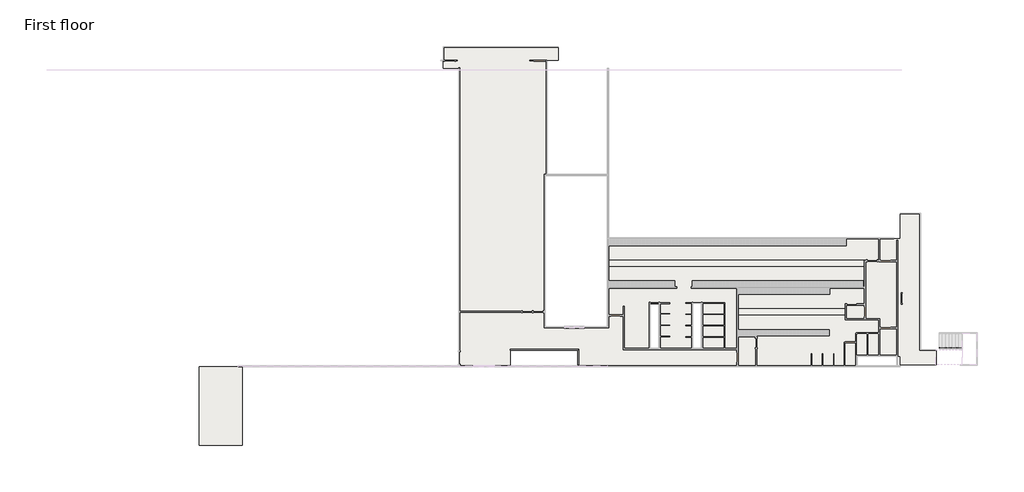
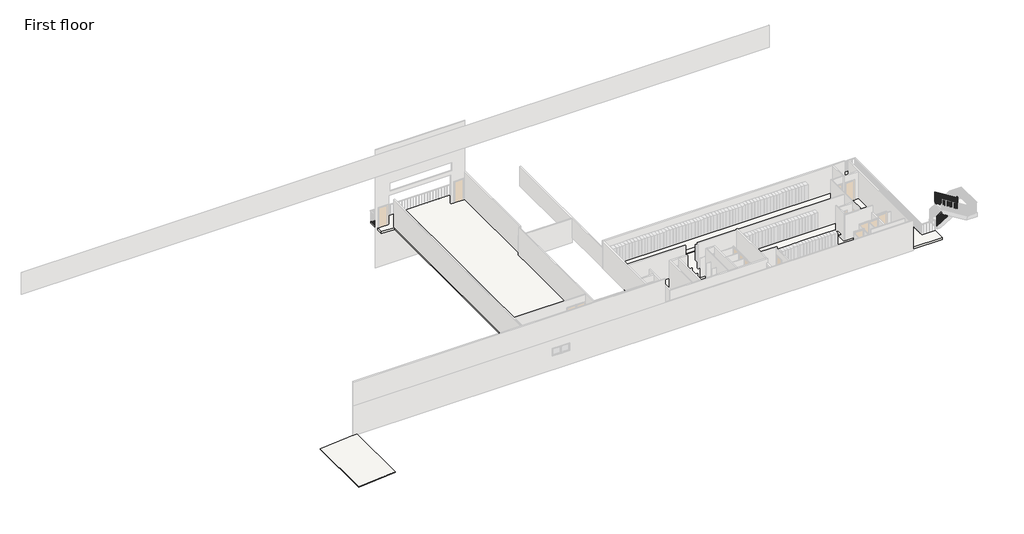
# One storey, part 3 of 5: 2 railings, 2 slabs, 1 roof.
"""IFC4 building model written with IfcOpenShell, lengths in millimetres."""

from ifc_helpers import new_model, si_unit, frame, origin, place, context, project, spatial, polyline, outline, extrude, faceted_brep, element, save

model = new_model("IFC4")

# Units and contexts
model_context = context("Model", 3, world=origin())
ifc_project = project(units=[si_unit("LENGTHUNIT", "METRE", prefix="MILLI")], contexts=[model_context])

# Site, building, storey
site = spatial("IfcSite", under=ifc_project)
building = spatial("IfcBuilding", under=site)
storey = spatial("IfcBuildingStorey", under=building, Name="First floor", Elevation=48170.0)

# Railings
placement = place(None, origin())
element("IfcRailing", 1, ObjectType="1100mm", at=placement, inside=storey, context=model_context, shape_type="SolidModel", body=[
    faceted_brep([(-112927.9372768, 13333.2777512, 49270.0), (-112927.9372768, 13333.2777512, 49220.0), (-112927.9372768, 13283.2777512, 49220.0), (-112927.9372768, 13283.2777512, 49270.0), (-107303.9945013, 13333.2777512, 49270.0), (-107303.9945013, 13333.2777512, 49220.0), (-107353.9945013, 13283.2777512, 49220.0), (-107353.9945013, 13283.2777512, 49270.0), (-107303.9945013, 12069.2777512, 49270.0), (-107353.9945013, 12069.2777512, 49270.0), (-107353.9945013, 12069.2777512, 49220.0), (-107303.9945013, 12069.2777512, 49220.0)], [[[0, 1, 2, 3]], [[1, 0, 4, 5]], [[2, 1, 5, 6]], [[3, 2, 6, 7]], [[0, 3, 7, 4]], [[8, 9, 10, 11]], [[5, 4, 8, 11]], [[6, 5, 11, 10]], [[7, 6, 10, 9]], [[4, 7, 9, 8]]]),
    extrude(outline(polyline([(-107341.4945013, 12220.7777512), (-107316.4945013, 12220.7777512), (-107316.4945013, 12195.7777512), (-107341.4945013, 12195.7777512), (-107341.4945013, 12220.7777512)])), frame((0.0, 0.0, 48170.0), z_axis=(0.0, 0.0, 1.0), x_axis=(1.0, 0.0, 0.0)), (0.0, 0.0, 1.0), 1050.0),
    extrude(outline(polyline([(-107341.4945013, 12495.7777512), (-107316.4945013, 12495.7777512), (-107316.4945013, 12470.7777512), (-107341.4945013, 12470.7777512), (-107341.4945013, 12495.7777512)])), frame((0.0, 0.0, 48170.0), z_axis=(0.0, 0.0, 1.0), x_axis=(1.0, 0.0, 0.0)), (0.0, 0.0, 1.0), 1050.0),
    extrude(outline(polyline([(-107341.4945013, 12770.7777512), (-107316.4945013, 12770.7777512), (-107316.4945013, 12745.7777512), (-107341.4945013, 12745.7777512), (-107341.4945013, 12770.7777512)])), frame((0.0, 0.0, 48170.0), z_axis=(0.0, 0.0, 1.0), x_axis=(1.0, 0.0, 0.0)), (0.0, 0.0, 1.0), 1050.0),
    extrude(outline(polyline([(-107341.4945013, 13045.7777512), (-107316.4945013, 13045.7777512), (-107316.4945013, 13020.7777512), (-107341.4945013, 13020.7777512), (-107341.4945013, 13045.7777512)])), frame((0.0, 0.0, 48170.0), z_axis=(0.0, 0.0, 1.0), x_axis=(1.0, 0.0, 0.0)), (0.0, 0.0, 1.0), 1050.0),
    extrude(outline(polyline([(-107440.4372768, 13295.7777512), (-107440.4372768, 13320.7777512), (-107415.4372768, 13320.7777512), (-107415.4372768, 13295.7777512), (-107440.4372768, 13295.7777512)])), frame((0.0, 0.0, 48170.0), z_axis=(0.0, 0.0, 1.0), x_axis=(1.0, 0.0, 0.0)), (0.0, 0.0, 1.0), 1050.0),
    extrude(outline(polyline([(-107715.4372768, 13295.7777512), (-107715.4372768, 13320.7777512), (-107690.4372768, 13320.7777512), (-107690.4372768, 13295.7777512), (-107715.4372768, 13295.7777512)])), frame((0.0, 0.0, 48170.0), z_axis=(0.0, 0.0, 1.0), x_axis=(1.0, 0.0, 0.0)), (0.0, 0.0, 1.0), 1050.0),
    extrude(outline(polyline([(-107990.4372768, 13295.7777512), (-107990.4372768, 13320.7777512), (-107965.4372768, 13320.7777512), (-107965.4372768, 13295.7777512), (-107990.4372768, 13295.7777512)])), frame((0.0, 0.0, 48170.0), z_axis=(0.0, 0.0, 1.0), x_axis=(1.0, 0.0, 0.0)), (0.0, 0.0, 1.0), 1050.0),
    extrude(outline(polyline([(-108265.4372768, 13295.7777512), (-108265.4372768, 13320.7777512), (-108240.4372768, 13320.7777512), (-108240.4372768, 13295.7777512), (-108265.4372768, 13295.7777512)])), frame((0.0, 0.0, 48170.0), z_axis=(0.0, 0.0, 1.0), x_axis=(1.0, 0.0, 0.0)), (0.0, 0.0, 1.0), 1050.0),
    extrude(outline(polyline([(-108540.4372768, 13295.7777512), (-108540.4372768, 13320.7777512), (-108515.4372768, 13320.7777512), (-108515.4372768, 13295.7777512), (-108540.4372768, 13295.7777512)])), frame((0.0, 0.0, 48170.0), z_axis=(0.0, 0.0, 1.0), x_axis=(1.0, 0.0, 0.0)), (0.0, 0.0, 1.0), 1050.0),
    extrude(outline(polyline([(-108815.4372768, 13295.7777512), (-108815.4372768, 13320.7777512), (-108790.4372768, 13320.7777512), (-108790.4372768, 13295.7777512), (-108815.4372768, 13295.7777512)])), frame((0.0, 0.0, 48170.0), z_axis=(0.0, 0.0, 1.0), x_axis=(1.0, 0.0, 0.0)), (0.0, 0.0, 1.0), 1050.0),
    extrude(outline(polyline([(-109090.4372768, 13295.7777512), (-109090.4372768, 13320.7777512), (-109065.4372768, 13320.7777512), (-109065.4372768, 13295.7777512), (-109090.4372768, 13295.7777512)])), frame((0.0, 0.0, 48170.0), z_axis=(0.0, 0.0, 1.0), x_axis=(1.0, 0.0, 0.0)), (0.0, 0.0, 1.0), 1050.0),
    extrude(outline(polyline([(-109365.4372768, 13295.7777512), (-109365.4372768, 13320.7777512), (-109340.4372768, 13320.7777512), (-109340.4372768, 13295.7777512), (-109365.4372768, 13295.7777512)])), frame((0.0, 0.0, 48170.0), z_axis=(0.0, 0.0, 1.0), x_axis=(1.0, 0.0, 0.0)), (0.0, 0.0, 1.0), 1050.0),
    extrude(outline(polyline([(-109640.4372768, 13295.7777512), (-109640.4372768, 13320.7777512), (-109615.4372768, 13320.7777512), (-109615.4372768, 13295.7777512), (-109640.4372768, 13295.7777512)])), frame((0.0, 0.0, 48170.0), z_axis=(0.0, 0.0, 1.0), x_axis=(1.0, 0.0, 0.0)), (0.0, 0.0, 1.0), 1050.0),
    extrude(outline(polyline([(-109915.4372768, 13295.7777512), (-109915.4372768, 13320.7777512), (-109890.4372768, 13320.7777512), (-109890.4372768, 13295.7777512), (-109915.4372768, 13295.7777512)])), frame((0.0, 0.0, 48170.0), z_axis=(0.0, 0.0, 1.0), x_axis=(1.0, 0.0, 0.0)), (0.0, 0.0, 1.0), 1050.0),
    extrude(outline(polyline([(-110190.4372768, 13295.7777512), (-110190.4372768, 13320.7777512), (-110165.4372768, 13320.7777512), (-110165.4372768, 13295.7777512), (-110190.4372768, 13295.7777512)])), frame((0.0, 0.0, 48170.0), z_axis=(0.0, 0.0, 1.0), x_axis=(1.0, 0.0, 0.0)), (0.0, 0.0, 1.0), 1050.0),
    extrude(outline(polyline([(-110465.4372768, 13295.7777512), (-110465.4372768, 13320.7777512), (-110440.4372768, 13320.7777512), (-110440.4372768, 13295.7777512), (-110465.4372768, 13295.7777512)])), frame((0.0, 0.0, 48170.0), z_axis=(0.0, 0.0, 1.0), x_axis=(1.0, 0.0, 0.0)), (0.0, 0.0, 1.0), 1050.0),
    extrude(outline(polyline([(-110740.4372768, 13295.7777512), (-110740.4372768, 13320.7777512), (-110715.4372768, 13320.7777512), (-110715.4372768, 13295.7777512), (-110740.4372768, 13295.7777512)])), frame((0.0, 0.0, 48170.0), z_axis=(0.0, 0.0, 1.0), x_axis=(1.0, 0.0, 0.0)), (0.0, 0.0, 1.0), 1050.0),
    extrude(outline(polyline([(-111015.4372768, 13295.7777512), (-111015.4372768, 13320.7777512), (-110990.4372768, 13320.7777512), (-110990.4372768, 13295.7777512), (-111015.4372768, 13295.7777512)])), frame((0.0, 0.0, 48170.0), z_axis=(0.0, 0.0, 1.0), x_axis=(1.0, 0.0, 0.0)), (0.0, 0.0, 1.0), 1050.0),
    extrude(outline(polyline([(-111290.4372768, 13295.7777512), (-111290.4372768, 13320.7777512), (-111265.4372768, 13320.7777512), (-111265.4372768, 13295.7777512), (-111290.4372768, 13295.7777512)])), frame((0.0, 0.0, 48170.0), z_axis=(0.0, 0.0, 1.0), x_axis=(1.0, 0.0, 0.0)), (0.0, 0.0, 1.0), 1050.0),
    extrude(outline(polyline([(-111565.4372768, 13295.7777512), (-111565.4372768, 13320.7777512), (-111540.4372768, 13320.7777512), (-111540.4372768, 13295.7777512), (-111565.4372768, 13295.7777512)])), frame((0.0, 0.0, 48170.0), z_axis=(0.0, 0.0, 1.0), x_axis=(1.0, 0.0, 0.0)), (0.0, 0.0, 1.0), 1050.0),
    extrude(outline(polyline([(-111840.4372768, 13295.7777512), (-111840.4372768, 13320.7777512), (-111815.4372768, 13320.7777512), (-111815.4372768, 13295.7777512), (-111840.4372768, 13295.7777512)])), frame((0.0, 0.0, 48170.0), z_axis=(0.0, 0.0, 1.0), x_axis=(1.0, 0.0, 0.0)), (0.0, 0.0, 1.0), 1050.0),
    extrude(outline(polyline([(-112115.4372768, 13295.7777512), (-112115.4372768, 13320.7777512), (-112090.4372768, 13320.7777512), (-112090.4372768, 13295.7777512), (-112115.4372768, 13295.7777512)])), frame((0.0, 0.0, 48170.0), z_axis=(0.0, 0.0, 1.0), x_axis=(1.0, 0.0, 0.0)), (0.0, 0.0, 1.0), 1050.0),
    extrude(outline(polyline([(-112390.4372768, 13295.7777512), (-112390.4372768, 13320.7777512), (-112365.4372768, 13320.7777512), (-112365.4372768, 13295.7777512), (-112390.4372768, 13295.7777512)])), frame((0.0, 0.0, 48170.0), z_axis=(0.0, 0.0, 1.0), x_axis=(1.0, 0.0, 0.0)), (0.0, 0.0, 1.0), 1050.0),
    extrude(outline(polyline([(-112665.4372768, 13295.7777512), (-112665.4372768, 13320.7777512), (-112640.4372768, 13320.7777512), (-112640.4372768, 13295.7777512), (-112665.4372768, 13295.7777512)])), frame((0.0, 0.0, 48170.0), z_axis=(0.0, 0.0, 1.0), x_axis=(1.0, 0.0, 0.0)), (0.0, 0.0, 1.0), 1050.0),
    extrude(outline(polyline([(-107341.4945013, 13295.7777512), (-107341.4945013, 13320.7777512), (-107316.4945013, 13320.7777512), (-107316.4945013, 13295.7777512), (-107341.4945013, 13295.7777512)])), frame((0.0, 0.0, 48170.0), z_axis=(0.0, 0.0, 1.0), x_axis=(1.0, 0.0, 0.0)), (0.0, 0.0, 1.0), 1050.0),
    extrude(outline(polyline([(-107341.4945013, 12094.2777512), (-107316.4945013, 12094.2777512), (-107316.4945013, 12069.2777512), (-107341.4945013, 12069.2777512), (-107341.4945013, 12094.2777512)])), frame((0.0, 0.0, 48170.0), z_axis=(0.0, 0.0, 1.0), x_axis=(1.0, 0.0, 0.0)), (0.0, 0.0, 1.0), 1050.0),
    extrude(outline(polyline([(-112927.9372768, 13295.7777512), (-112927.9372768, 13320.7777512), (-112902.9372768, 13320.7777512), (-112902.9372768, 13295.7777512), (-112927.9372768, 13295.7777512)])), frame((0.0, 0.0, 48170.0), z_axis=(0.0, 0.0, 1.0), x_axis=(1.0, 0.0, 0.0)), (0.0, 0.0, 1.0), 1050.0),
])
element("IfcRailing", 2, ObjectType="1100mm", at=placement, inside=storey, context=model_context, shape_type="SolidModel", body=[
    faceted_brep([(-77698.5913038, 13497.8703267, 49438.0650943), (-77698.5913038, 13497.8703267, 49379.1698361), (-77698.5913038, 13447.8703267, 49379.1698361), (-77698.5913038, 13447.8703267, 49438.0650943), (-75883.1913038, 13497.8703267, 50568.0849916), (-75833.1913038, 13497.8703267, 50540.312899), (-75833.1913038, 13447.8703267, 50540.312899), (-75883.1913038, 13447.8703267, 50568.0849916), (-75758.1913038, 13372.8703267, 50564.5207547), (-75758.1913038, 13372.8703267, 50614.5207547), (-75758.1913038, 13371.701051, 50614.5207547), (-75758.1913038, 13321.701051, 50564.5207547), (-75808.1913038, 13372.8703267, 50564.5207547), (-75808.1913038, 13321.701051, 50564.5207547), (-75808.1913038, 13372.8703267, 50614.5207547), (-75808.1913038, 13371.701051, 50614.5207547), (-77968.5913038, 13246.701051, 52127.1066037), (-77968.5913038, 13296.701051, 52127.1066037), (-77968.5913038, 13296.701051, 52068.2113455), (-77968.5913038, 13246.701051, 52068.2113455), (-75897.4817174, 13246.701051, 50779.0216121), (-75883.1913038, 13246.701051, 50829.0216121), (-75897.4817174, 13296.701051, 50779.0216121), (-75883.1913038, 13296.701051, 50829.0216121), (-75883.1913038, 13497.8703267, 50614.5207547), (-75833.1913038, 13497.8703267, 50564.5207547), (-75833.1913038, 13447.8703267, 50564.5207547), (-75883.1913038, 13447.8703267, 50614.5207547), (-75758.1913038, 13497.8703267, 50614.5207547), (-75758.1913038, 13497.8703267, 50564.5207547), (-75808.1913038, 13447.8703267, 50564.5207547), (-75808.1913038, 13447.8703267, 50614.5207547), (-75758.1913038, 13371.701051, 50829.0216121), (-75758.1913038, 13321.701051, 50779.0216121), (-75808.1913038, 13321.701051, 50779.0216121), (-75808.1913038, 13371.701051, 50829.0216121), (-75758.1913038, 13246.701051, 50829.0216121), (-75758.1913038, 13246.701051, 50779.0216121), (-75808.1913038, 13296.701051, 50779.0216121), (-75808.1913038, 13296.701051, 50829.0216121)], [[[0, 1, 2, 3]], [[1, 0, 4, 5]], [[2, 1, 5, 6]], [[3, 2, 6, 7]], [[0, 3, 7, 4]], [[8, 9, 10, 11]], [[12, 8, 11, 13]], [[14, 12, 13, 15]], [[9, 14, 15, 10]], [[16, 17, 18, 19]], [[20, 21, 16, 19]], [[22, 20, 19, 18]], [[23, 22, 18, 17]], [[21, 23, 17, 16]], [[5, 4, 24, 25]], [[6, 5, 25, 26]], [[7, 6, 26, 27]], [[4, 7, 27, 24]], [[25, 24, 28, 29]], [[26, 25, 29, 30]], [[27, 26, 30, 31]], [[24, 27, 31, 28]], [[29, 28, 9, 8]], [[30, 29, 8, 12]], [[31, 30, 12, 14]], [[28, 31, 14, 9]], [[11, 10, 32, 33]], [[13, 11, 33, 34]], [[15, 13, 34, 35]], [[10, 15, 35, 32]], [[33, 32, 36, 37]], [[34, 33, 37, 38]], [[35, 34, 38, 39]], [[32, 35, 39, 36]], [[37, 36, 21, 20]], [[38, 37, 20, 22]], [[39, 38, 22, 23]], [[36, 39, 23, 21]]]),
    extrude(outline(polyline([(50859.0415094, -77863.1913038), (52002.6037124, -77863.1913038), (52018.1652952, -77888.1913038), (50859.0415094, -77888.1913038), (50859.0415094, -77863.1913038)])), frame((0.0, 13259.201051, 0.0), z_axis=(0.0, 1.0, 0.0), x_axis=(0.0, 0.0, 1.0)), (0.0, 0.0, 1.0), 25.0),
    extrude(outline(polyline([(50859.0415094, -77728.1913038), (51918.5711652, -77728.1913038), (51934.132748, -77753.1913038), (50859.0415094, -77753.1913038), (50859.0415094, -77728.1913038)])), frame((0.0, 13259.201051, 0.0), z_axis=(0.0, 1.0, 0.0), x_axis=(0.0, 0.0, 1.0)), (0.0, 0.0, 1.0), 25.0),
    extrude(outline(polyline([(50690.976415, -77593.1913038), (51834.538618, -77593.1913038), (51850.1002008, -77618.1913038), (50690.976415, -77618.1913038), (50690.976415, -77593.1913038)])), frame((0.0, 13259.201051, 0.0), z_axis=(0.0, 1.0, 0.0), x_axis=(0.0, 0.0, 1.0)), (0.0, 0.0, 1.0), 25.0),
    extrude(outline(polyline([(50690.976415, -77458.1913038), (51750.5060709, -77458.1913038), (51766.0676537, -77483.1913038), (50690.976415, -77483.1913038), (50690.976415, -77458.1913038)])), frame((0.0, 13259.201051, 0.0), z_axis=(0.0, 1.0, 0.0), x_axis=(0.0, 0.0, 1.0)), (0.0, 0.0, 1.0), 25.0),
    extrude(outline(polyline([(50522.9113207, -77323.1913038), (51666.4735237, -77323.1913038), (51682.0351065, -77348.1913038), (50522.9113207, -77348.1913038), (50522.9113207, -77323.1913038)])), frame((0.0, 13259.201051, 0.0), z_axis=(0.0, 1.0, 0.0), x_axis=(0.0, 0.0, 1.0)), (0.0, 0.0, 1.0), 25.0),
    extrude(outline(polyline([(50522.9113207, -77188.1913038), (51582.4409765, -77188.1913038), (51598.0025593, -77213.1913038), (50522.9113207, -77213.1913038), (50522.9113207, -77188.1913038)])), frame((0.0, 13259.201051, 0.0), z_axis=(0.0, 1.0, 0.0), x_axis=(0.0, 0.0, 1.0)), (0.0, 0.0, 1.0), 25.0),
    extrude(outline(polyline([(50354.8462263, -77053.1913038), (51498.4084294, -77053.1913038), (51513.9700122, -77078.1913038), (50354.8462263, -77078.1913038), (50354.8462263, -77053.1913038)])), frame((0.0, 13259.201051, 0.0), z_axis=(0.0, 1.0, 0.0), x_axis=(0.0, 0.0, 1.0)), (0.0, 0.0, 1.0), 25.0),
    extrude(outline(polyline([(50354.8462263, -76918.1913038), (51414.3758822, -76918.1913038), (51429.937465, -76943.1913038), (50354.8462263, -76943.1913038), (50354.8462263, -76918.1913038)])), frame((0.0, 13259.201051, 0.0), z_axis=(0.0, 1.0, 0.0), x_axis=(0.0, 0.0, 1.0)), (0.0, 0.0, 1.0), 25.0),
    extrude(outline(polyline([(50186.781132, -76783.1913038), (51330.343335, -76783.1913038), (51345.9049178, -76808.1913038), (50186.781132, -76808.1913038), (50186.781132, -76783.1913038)])), frame((0.0, 13259.201051, 0.0), z_axis=(0.0, 1.0, 0.0), x_axis=(0.0, 0.0, 1.0)), (0.0, 0.0, 1.0), 25.0),
    extrude(outline(polyline([(50186.781132, -76648.1913038), (51246.3107879, -76648.1913038), (51261.8723707, -76673.1913038), (50186.781132, -76673.1913038), (50186.781132, -76648.1913038)])), frame((0.0, 13259.201051, 0.0), z_axis=(0.0, 1.0, 0.0), x_axis=(0.0, 0.0, 1.0)), (0.0, 0.0, 1.0), 25.0),
    extrude(outline(polyline([(50018.7160377, -76513.1913038), (51162.2782407, -76513.1913038), (51177.8398235, -76538.1913038), (50018.7160377, -76538.1913038), (50018.7160377, -76513.1913038)])), frame((0.0, 13259.201051, 0.0), z_axis=(0.0, 1.0, 0.0), x_axis=(0.0, 0.0, 1.0)), (0.0, 0.0, 1.0), 25.0),
    extrude(outline(polyline([(50018.7160377, -76378.1913038), (51078.2456935, -76378.1913038), (51093.8072763, -76403.1913038), (50018.7160377, -76403.1913038), (50018.7160377, -76378.1913038)])), frame((0.0, 13259.201051, 0.0), z_axis=(0.0, 1.0, 0.0), x_axis=(0.0, 0.0, 1.0)), (0.0, 0.0, 1.0), 25.0),
    extrude(outline(polyline([(49850.6509433, -76243.1913038), (50994.2131464, -76243.1913038), (51009.7747292, -76268.1913038), (49850.6509433, -76268.1913038), (49850.6509433, -76243.1913038)])), frame((0.0, 13259.201051, 0.0), z_axis=(0.0, 1.0, 0.0), x_axis=(0.0, 0.0, 1.0)), (0.0, 0.0, 1.0), 25.0),
    extrude(outline(polyline([(49850.6509433, -76108.1913038), (50910.1805992, -76108.1913038), (50925.742182, -76133.1913038), (49850.6509433, -76133.1913038), (49850.6509433, -76108.1913038)])), frame((0.0, 13259.201051, 0.0), z_axis=(0.0, 1.0, 0.0), x_axis=(0.0, 0.0, 1.0)), (0.0, 0.0, 1.0), 25.0),
    extrude(outline(polyline([(49682.585849, -75973.1913038), (50826.148052, -75973.1913038), (50841.7096348, -75998.1913038), (49682.585849, -75998.1913038), (49682.585849, -75973.1913038)])), frame((0.0, 13259.201051, 0.0), z_axis=(0.0, 1.0, 0.0), x_axis=(0.0, 0.0, 1.0)), (0.0, 0.0, 1.0), 25.0),
    extrude(outline(polyline([(-75838.1913038, 13284.201051), (-75838.1913038, 13259.201051), (-75863.1913038, 13259.201051), (-75863.1913038, 13284.201051), (-75838.1913038, 13284.201051)])), frame((0.0, 0.0, 49682.585849), z_axis=(0.0, 0.0, 1.0), x_axis=(1.0, 0.0, 0.0)), (0.0, 0.0, 1.0), 1096.4357631),
    extrude(outline(polyline([(-75795.6913038, 13417.8703267), (-75770.6913038, 13417.8703267), (-75770.6913038, 13392.8703267), (-75795.6913038, 13392.8703267), (-75795.6913038, 13417.8703267)])), frame((0.0, 0.0, 49514.5207547), z_axis=(0.0, 0.0, 1.0), x_axis=(1.0, 0.0, 0.0)), (0.0, 0.0, 1.0), 1050.0),
    extrude(outline(polyline([(-75888.5913038, 13460.3703267), (-75888.5913038, 13485.3703267), (-75863.5913038, 13485.3703267), (-75863.5913038, 13460.3703267), (-75888.5913038, 13460.3703267)])), frame((0.0, 0.0, 49346.4556603), z_axis=(0.0, 0.0, 1.0), x_axis=(1.0, 0.0, 0.0)), (0.0, 0.0, 1.0), 1218.0650943),
    extrude(outline(polyline([(50421.7958843, -76023.5913038), (49346.4556603, -76023.5913038), (49346.4556603, -75998.5913038), (50437.3574671, -75998.5913038), (50421.7958843, -76023.5913038)])), frame((0.0, 13460.3703267, 0.0), z_axis=(0.0, 1.0, 0.0), x_axis=(0.0, 0.0, 1.0)), (0.0, 0.0, 1.0), 25.0),
    extrude(outline(polyline([(50337.7633372, -76158.5913038), (49178.390566, -76158.5913038), (49178.390566, -76133.5913038), (50353.32492, -76133.5913038), (50337.7633372, -76158.5913038)])), frame((0.0, 13460.3703267, 0.0), z_axis=(0.0, 1.0, 0.0), x_axis=(0.0, 0.0, 1.0)), (0.0, 0.0, 1.0), 25.0),
    extrude(outline(polyline([(50253.73079, -76293.5913038), (49178.390566, -76293.5913038), (49178.390566, -76268.5913038), (50269.2923728, -76268.5913038), (50253.73079, -76293.5913038)])), frame((0.0, 13460.3703267, 0.0), z_axis=(0.0, 1.0, 0.0), x_axis=(0.0, 0.0, 1.0)), (0.0, 0.0, 1.0), 25.0),
    extrude(outline(polyline([(50169.6982428, -76428.5913038), (49010.3254717, -76428.5913038), (49010.3254717, -76403.5913038), (50185.2598256, -76403.5913038), (50169.6982428, -76428.5913038)])), frame((0.0, 13460.3703267, 0.0), z_axis=(0.0, 1.0, 0.0), x_axis=(0.0, 0.0, 1.0)), (0.0, 0.0, 1.0), 25.0),
    extrude(outline(polyline([(50085.6656957, -76563.5913038), (49010.3254717, -76563.5913038), (49010.3254717, -76538.5913038), (50101.2272785, -76538.5913038), (50085.6656957, -76563.5913038)])), frame((0.0, 13460.3703267, 0.0), z_axis=(0.0, 1.0, 0.0), x_axis=(0.0, 0.0, 1.0)), (0.0, 0.0, 1.0), 25.0),
    extrude(outline(polyline([(50001.6331485, -76698.5913038), (48842.2603773, -76698.5913038), (48842.2603773, -76673.5913038), (50017.1947313, -76673.5913038), (50001.6331485, -76698.5913038)])), frame((0.0, 13460.3703267, 0.0), z_axis=(0.0, 1.0, 0.0), x_axis=(0.0, 0.0, 1.0)), (0.0, 0.0, 1.0), 25.0),
    extrude(outline(polyline([(49917.6006013, -76833.5913038), (48842.2603773, -76833.5913038), (48842.2603773, -76808.5913038), (49933.1621841, -76808.5913038), (49917.6006013, -76833.5913038)])), frame((0.0, 13460.3703267, 0.0), z_axis=(0.0, 1.0, 0.0), x_axis=(0.0, 0.0, 1.0)), (0.0, 0.0, 1.0), 25.0),
    extrude(outline(polyline([(49833.5680542, -76968.5913038), (48674.195283, -76968.5913038), (48674.195283, -76943.5913038), (49849.129637, -76943.5913038), (49833.5680542, -76968.5913038)])), frame((0.0, 13460.3703267, 0.0), z_axis=(0.0, 1.0, 0.0), x_axis=(0.0, 0.0, 1.0)), (0.0, 0.0, 1.0), 25.0),
    extrude(outline(polyline([(49749.535507, -77103.5913038), (48674.195283, -77103.5913038), (48674.195283, -77078.5913038), (49765.0970898, -77078.5913038), (49749.535507, -77103.5913038)])), frame((0.0, 13460.3703267, 0.0), z_axis=(0.0, 1.0, 0.0), x_axis=(0.0, 0.0, 1.0)), (0.0, 0.0, 1.0), 25.0),
    extrude(outline(polyline([(49665.5029598, -77238.5913038), (48506.1301887, -77238.5913038), (48506.1301887, -77213.5913038), (49681.0645426, -77213.5913038), (49665.5029598, -77238.5913038)])), frame((0.0, 13460.3703267, 0.0), z_axis=(0.0, 1.0, 0.0), x_axis=(0.0, 0.0, 1.0)), (0.0, 0.0, 1.0), 25.0),
    extrude(outline(polyline([(49581.4704127, -77373.5913038), (48506.1301887, -77373.5913038), (48506.1301887, -77348.5913038), (49597.0319955, -77348.5913038), (49581.4704127, -77373.5913038)])), frame((0.0, 13460.3703267, 0.0), z_axis=(0.0, 1.0, 0.0), x_axis=(0.0, 0.0, 1.0)), (0.0, 0.0, 1.0), 25.0),
    extrude(outline(polyline([(49497.4378655, -77508.5913038), (48338.0650943, -77508.5913038), (48338.0650943, -77483.5913038), (49512.9994483, -77483.5913038), (49497.4378655, -77508.5913038)])), frame((0.0, 13460.3703267, 0.0), z_axis=(0.0, 1.0, 0.0), x_axis=(0.0, 0.0, 1.0)), (0.0, 0.0, 1.0), 25.0),
    extrude(outline(polyline([(49413.4053183, -77643.5913038), (48338.0650943, -77643.5913038), (48338.0650943, -77618.5913038), (49428.9669011, -77618.5913038), (49413.4053183, -77643.5913038)])), frame((0.0, 13460.3703267, 0.0), z_axis=(0.0, 1.0, 0.0), x_axis=(0.0, 0.0, 1.0)), (0.0, 0.0, 1.0), 25.0),
    extrude(outline(polyline([(-75795.6913038, 13284.201051), (-75770.6913038, 13284.201051), (-75770.6913038, 13259.201051), (-75795.6913038, 13259.201051), (-75795.6913038, 13284.201051)])), frame((0.0, 0.0, 49514.5207547), z_axis=(0.0, 0.0, 1.0), x_axis=(1.0, 0.0, 0.0)), (0.0, 0.0, 1.0), 1264.5008574),
    extrude(outline(polyline([(-75795.6913038, 13460.3703267), (-75795.6913038, 13485.3703267), (-75770.6913038, 13485.3703267), (-75770.6913038, 13460.3703267), (-75795.6913038, 13460.3703267)])), frame((0.0, 0.0, 49514.5207547), z_axis=(0.0, 0.0, 1.0), x_axis=(1.0, 0.0, 0.0)), (0.0, 0.0, 1.0), 1050.0),
    extrude(outline(polyline([(50859.0415094, -77943.5913038), (52052.6497627, -77943.5913038), (52068.2113455, -77968.5913038), (50859.0415094, -77968.5913038), (50859.0415094, -77943.5913038)])), frame((0.0, 13259.201051, 0.0), z_axis=(0.0, 1.0, 0.0), x_axis=(0.0, 0.0, 1.0)), (0.0, 0.0, 1.0), 25.0),
    extrude(outline(polyline([(49379.1698361, -77698.5913038), (48338.0650943, -77698.5913038), (48338.0650943, -77673.5913038), (49394.7314189, -77673.5913038), (49379.1698361, -77698.5913038)])), frame((0.0, 13460.3703267, 0.0), z_axis=(0.0, 1.0, 0.0), x_axis=(0.0, 0.0, 1.0)), (0.0, 0.0, 1.0), 25.0),
])

# Roof
element("IfcRoof", 3, ObjectType="50", at=placement, inside=storey, context=model_context, shape_type="SweptSolid", body=[
    extrude(outline(polyline([(48030.3547588, -134900.5917799), (47720.1909919, -138445.7798584), (47670.0, -138445.7798584), (47980.1637669, -134900.5917799), (48030.3547588, -134900.5917799)])), frame((0.0, 5475.2225353, 0.0), z_axis=(0.0, 1.0, 0.0), x_axis=(0.0, 0.0, 1.0)), (0.0, 0.0, 1.0), 6433.0552159),
])

# Slabs
element("IfcSlab", 4, ObjectType="Counter", at=placement, inside=storey, context=model_context, shape_type="SweptSolid", body=[
    extrude(outline(polyline([(-83843.1454492, 20669.2777512), (-83843.1454492, 20169.2777512), (-104897.9372768, 20169.2777512), (-104897.9372768, 20669.2777512), (-83843.1454492, 20669.2777512)])), frame((0.0, 0.0, 48620.0), z_axis=(0.0, 0.0, 1.0), x_axis=(1.0, 0.0, 0.0)), (0.0, 0.0, 1.0), 50.0),
    extrude(outline(polyline([(-85414.6956616, 16669.2777512), (-85414.6956616, 16169.2777512), (-94214.6956534, 16169.2777512), (-94214.6956534, 16669.2777512), (-85414.6956616, 16669.2777512)])), frame((0.0, 0.0, 48620.0), z_axis=(0.0, 0.0, 1.0), x_axis=(1.0, 0.0, 0.0)), (0.0, 0.0, 1.0), 50.0),
])
element("IfcSlab", 5, ObjectType="Mezz", at=placement, inside=storey, context=model_context, shape_type="SweptSolid", body=[
    extrude(outline(polyline([(-104847.9372768, 22407.4703267), (-80897.1407976, 22407.4703267), (-80897.1407976, 24511.6777512), (-79253.9903559, 24511.6777512), (-79253.9903559, 13297.101051), (-77953.9903559, 13297.101051), (-77953.9903559, 12086.2777512), (-80897.1407976, 12086.2777512), (-80897.1407976, 12769.2777512), (-84438.1491113, 12769.2777512), (-84438.1491113, 12008.2777512), (-107328.9945013, 12008.2777512), (-107328.9945013, 13308.2777512), (-112927.9372768, 13308.2777512), (-112927.9372768, 12008.2777512), (-117100.5917799, 12008.2777512), (-117100.5917799, 36405.969902), (-118398.6902477, 36405.969902), (-118398.6902477, 38178.2777512), (-108977.8719448, 38178.2777512), (-108977.8719448, 37065.0854127), (-109967.8719448, 37065.0854127), (-109967.8719448, 27708.4151802), (-110067.8719448, 27708.4151802), (-110067.8719448, 15207.4703267), (-104847.9372768, 15207.4703267), (-104847.9372768, 22407.4703267)]), holes=[polyline([(-101415.3635872, 13419.2679026), (-100714.7089598, 13419.2679026), (-100714.7089598, 17044.2679026), (-101415.3635872, 17044.2679026), (-101415.3635872, 13419.2679026)]), polyline([(-97917.3900708, 13419.2679026), (-97214.7089598, 13419.2679026), (-97214.7089598, 17169.2679026), (-97917.3900708, 17169.2679026), (-97917.3900708, 13419.2679026)])]), frame((0.0, 0.0, 47970.0), z_axis=(0.0, 0.0, 1.0), x_axis=(1.0, 0.0, 0.0)), (0.0, 0.0, 1.0), 200.0),
])

save(model, "model.ifc")
